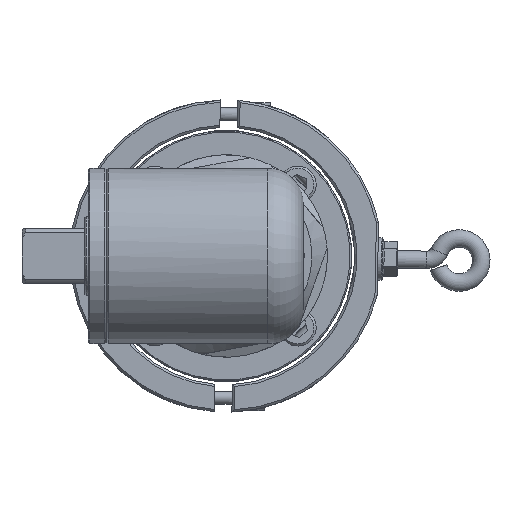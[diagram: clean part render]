
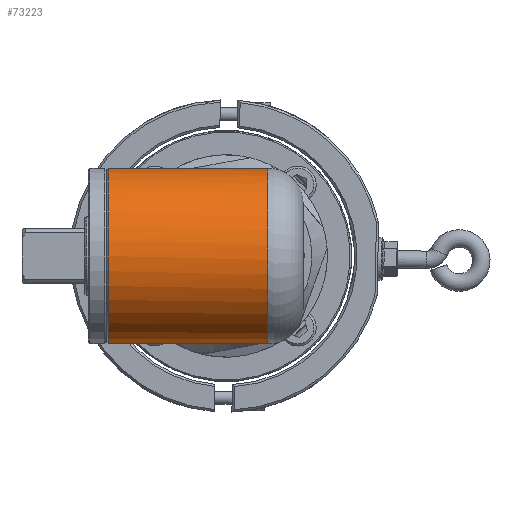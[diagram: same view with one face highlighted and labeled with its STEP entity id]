
A CAD part, left-side view. The second image highlights one B-rep face of the part: STEP entity #73223.
In plain terms, the highlighted cylindrical face has radius 20 mm (diameter 40 mm), a full revolution.
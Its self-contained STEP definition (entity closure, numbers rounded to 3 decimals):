
#2259 = AXIS2_PLACEMENT_3D ( 'NONE', #10546, #30206, #51264 ) ;
#2266 = LINE ( 'NONE', #62233, #2326 ) ;
#2326 = VECTOR ( 'NONE', #7220, 1000. ) ;
#7220 = DIRECTION ( 'NONE',  ( 0., 1., 0. ) ) ;
#7960 = VERTEX_POINT ( 'NONE', #43900 ) ;
#10315 = CIRCLE ( 'NONE', #54642, 20. ) ;
#10546 = CARTESIAN_POINT ( 'NONE',  ( -282.3, -17.5, 0. ) ) ;
#12418 = AXIS2_PLACEMENT_3D ( 'NONE', #12472, #19634, #46897 ) ;
#12472 = CARTESIAN_POINT ( 'NONE',  ( -282.3, 26.8, 0. ) ) ;
#14323 = CARTESIAN_POINT ( 'NONE',  ( -274.039, 17.5, 18.214 ) ) ;
#15430 = EDGE_LOOP ( 'NONE', ( #51599 ) ) ;
#19314 = DIRECTION ( 'NONE',  ( 0., 0., 1. ) ) ;
#19634 = DIRECTION ( 'NONE',  ( 0., -1., 0. ) ) ;
#20084 = ORIENTED_EDGE ( 'NONE', *, *, #61092, .T. ) ;
#23280 = CARTESIAN_POINT ( 'NONE',  ( -274.039, -9.5, 18.214 ) ) ;
#27573 = CYLINDRICAL_SURFACE ( 'NONE', #2259, 20. ) ;
#29802 = EDGE_CURVE ( 'NONE', #79701, #86975, #10315, .T. ) ;
#30206 = DIRECTION ( 'NONE',  ( 0., -1., 0. ) ) ;
#30403 = CARTESIAN_POINT ( 'NONE',  ( -282.3, 26.8, -20. ) ) ;
#32450 = DIRECTION ( 'NONE',  ( 0., -1., 0. ) ) ;
#36033 = FACE_OUTER_BOUND ( 'NONE', #15430, .T. ) ;
#38082 = CIRCLE ( 'NONE', #12418, 20. ) ;
#39525 = ORIENTED_EDGE ( 'NONE', *, *, #76390, .T. ) ;
#40301 = CARTESIAN_POINT ( 'NONE',  ( -282.3, -9.5, 0. ) ) ;
#40733 = DIRECTION ( 'NONE',  ( 0., 1., 0. ) ) ;
#40767 = CARTESIAN_POINT ( 'NONE',  ( -282.3, 17.5, 0. ) ) ;
#43640 = VERTEX_POINT ( 'NONE', #14323 ) ;
#43900 = CARTESIAN_POINT ( 'NONE',  ( -274.039, 17.5, -18.214 ) ) ;
#44465 = EDGE_LOOP ( 'NONE', ( #39525, #65210, #20084, #85843 ) ) ;
#45898 = LINE ( 'NONE', #73140, #72713 ) ;
#46897 = DIRECTION ( 'NONE',  ( 0., 0., -1. ) ) ;
#51264 = DIRECTION ( 'NONE',  ( 0., 0., -1. ) ) ;
#51599 = ORIENTED_EDGE ( 'NONE', *, *, #72522, .T. ) ;
#54642 = AXIS2_PLACEMENT_3D ( 'NONE', #40301, #40733, #19314 ) ;
#54883 = FACE_OUTER_BOUND ( 'NONE', #44465, .T. ) ;
#61092 = EDGE_CURVE ( 'NONE', #86975, #43640, #2266, .T. ) ;
#62233 = CARTESIAN_POINT ( 'NONE',  ( -274.039, -17.5, 18.214 ) ) ;
#64758 = CARTESIAN_POINT ( 'NONE',  ( -274.039, -9.5, -18.214 ) ) ;
#65210 = ORIENTED_EDGE ( 'NONE', *, *, #29802, .T. ) ;
#67144 = DIRECTION ( 'NONE',  ( 0., -1., 0. ) ) ;
#72522 = EDGE_CURVE ( 'NONE', #83684, #83684, #38082, .T. ) ;
#72713 = VECTOR ( 'NONE', #32450, 1000. ) ;
#72957 = CIRCLE ( 'NONE', #85856, 20. ) ;
#73140 = CARTESIAN_POINT ( 'NONE',  ( -274.039, -17.5, -18.214 ) ) ;
#73223 = ADVANCED_FACE ( 'NONE', ( #36033, #54883 ), #27573, .T. ) ;
#76390 = EDGE_CURVE ( 'NONE', #7960, #79701, #45898, .T. ) ;
#79701 = VERTEX_POINT ( 'NONE', #64758 ) ;
#83684 = VERTEX_POINT ( 'NONE', #30403 ) ;
#85843 = ORIENTED_EDGE ( 'NONE', *, *, #88068, .F. ) ;
#85856 = AXIS2_PLACEMENT_3D ( 'NONE', #40767, #67144, #86901 ) ;
#86901 = DIRECTION ( 'NONE',  ( 0., 0., 1. ) ) ;
#86975 = VERTEX_POINT ( 'NONE', #23280 ) ;
#88068 = EDGE_CURVE ( 'NONE', #7960, #43640, #72957, .T. ) ;
